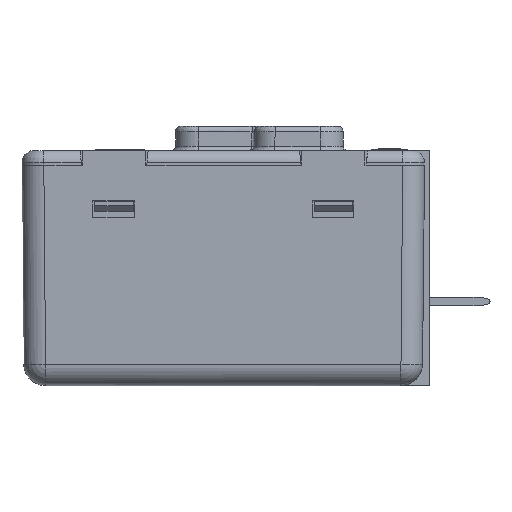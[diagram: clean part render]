
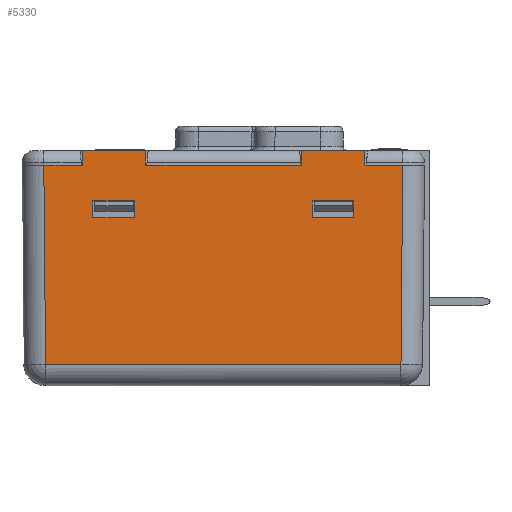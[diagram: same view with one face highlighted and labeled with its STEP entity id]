
A CAD part, left-side view. The second image highlights one B-rep face of the part: STEP entity #5330.
In plain terms, the highlighted planar face has unit normal (-1, 0, -0.009).
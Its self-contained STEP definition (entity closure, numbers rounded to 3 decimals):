
#1540=CARTESIAN_POINT('',(0.026,0.,15.25));
#1550=DIRECTION('',(0.,-1.,0.));
#1560=VECTOR('',#1550,1.);
#1570=LINE('',#1540,#1560);
#1580=CARTESIAN_POINT('',(0.026,27.35,15.25));
#1590=VERTEX_POINT('',#1580);
#1600=CARTESIAN_POINT('',(0.026,23.95,15.25));
#1610=VERTEX_POINT('',#1600);
#1620=EDGE_CURVE('',#1590,#1610,#1570,.T.);
#2290=CARTESIAN_POINT('',(0.038,23.95,13.85));
#2300=VERTEX_POINT('',#2290);
#2350=CARTESIAN_POINT('',(0.038,0.,13.85));
#2360=DIRECTION('',(0.,1.,0.));
#2370=VECTOR('',#2360,1.);
#2380=LINE('',#2350,#2370);
#2390=CARTESIAN_POINT('',(0.038,27.35,13.85));
#2400=VERTEX_POINT('',#2390);
#2410=EDGE_CURVE('',#2300,#2400,#2380,.T.);
#3160=CARTESIAN_POINT('',(0.159,0.,0.001));
#3170=DIRECTION('',(-1.,0.,-0.009));
#3180=DIRECTION('',(0.,1.,0.));
#3190=AXIS2_PLACEMENT_3D('',#3160,#3170,#3180);
#3200=PLANE('',#3190);
#3210=CARTESIAN_POINT('',(0.143,0.,1.784));
#3220=DIRECTION('',(0.,1.,0.));
#3230=VECTOR('',#3220,1.);
#3240=LINE('',#3210,#3230);
#3250=CARTESIAN_POINT('',(0.143,1.943,
1.784));
#3260=VERTEX_POINT('',#3250);
#3270=CARTESIAN_POINT('',(0.143,31.257,
1.784));
#3280=VERTEX_POINT('',#3270);
#3290=EDGE_CURVE('',#3260,#3280,#3240,.T.);
#3300=ORIENTED_EDGE('',*,*,#3290,.F.);
#3310=CARTESIAN_POINT('',(0.159,31.241,
-0.016));
#3320=DIRECTION('',(-0.009,0.009,
1.));
#3330=VECTOR('',#3320,1.);
#3340=LINE('',#3310,#3330);
#3350=CARTESIAN_POINT('',(0.,31.4,
18.2));
#3360=VERTEX_POINT('',#3350);
#3370=EDGE_CURVE('',#3280,#3360,#3340,.T.);
#3380=ORIENTED_EDGE('',*,*,#3370,.F.);
#3390=CARTESIAN_POINT('',(0.,31.4,18.2));
#3400=CARTESIAN_POINT('',(0.,31.4,
18.2));
#3410=CARTESIAN_POINT('',(0.,31.4,
18.2));
#3420=CARTESIAN_POINT('',(0.,31.4,
18.2));
#3430=CARTESIAN_POINT('',(0.,31.4,
18.2));
#3440=CARTESIAN_POINT('',(0.,31.4,
18.2));
#3450=CARTESIAN_POINT('',(0.,31.4,
18.2));
#3460=CARTESIAN_POINT('',(0.,31.4,
18.2));
#3470=CARTESIAN_POINT('',(0.,31.4,
18.2));
#3480=CARTESIAN_POINT('',(0.,31.4,
18.2));
#3490=CARTESIAN_POINT('',(0.,31.4,
18.2));
#3500=CARTESIAN_POINT('',(0.,31.4,
18.2));
#3510=CARTESIAN_POINT('',(0.,31.4,
18.2));
#3520=B_SPLINE_CURVE_WITH_KNOTS('',3,(#3390,#3400,#3410,#3420,#3430,
#3440,#3450,#3460,#3470,#3480,#3490,#3500,#3510),.UNSPECIFIED.,.F.,.F.,(
4,3,3,3,4),(0.,0.,0.,
0.,0.),.UNSPECIFIED.);
#3530=CARTESIAN_POINT('',(0.,31.4,18.2));
#3540=VERTEX_POINT('',#3530);
#3550=EDGE_CURVE('',#3540,#3360,#3520,.T.);
#3560=ORIENTED_EDGE('',*,*,#3550,.T.);
#3570=CARTESIAN_POINT('',(0.,0.,18.2));
#3580=DIRECTION('',(0.,1.,0.));
#3590=VECTOR('',#3580,1.);
#3600=LINE('',#3570,#3590);
#3610=CARTESIAN_POINT('',(0.,28.3,18.2));
#3620=VERTEX_POINT('',#3610);
#3630=EDGE_CURVE('',#3620,#3540,#3600,.T.);
#3640=ORIENTED_EDGE('',*,*,#3630,.T.);
#3650=CARTESIAN_POINT('',(0.,0.,18.2));
#3660=DIRECTION('',(0.,-1.,0.));
#3670=VECTOR('',#3660,1.);
#3680=LINE('',#3650,#3670);
#3690=CARTESIAN_POINT('',(0.,28.25,18.2));
#3700=VERTEX_POINT('',#3690);
#3710=EDGE_CURVE('',#3620,#3700,#3680,.T.);
#3720=ORIENTED_EDGE('',*,*,#3710,.F.);
#3730=CARTESIAN_POINT('',(0.159,28.25,0.));
#3740=DIRECTION('',(-0.009,0.,1.));
#3750=VECTOR('',#3740,1.);
#3760=LINE('',#3730,#3750);
#3770=CARTESIAN_POINT('',(-0.01,28.25,19.38));
#3780=VERTEX_POINT('',#3770);
#3790=EDGE_CURVE('',#3700,#3780,#3760,.T.);
#3800=ORIENTED_EDGE('',*,*,#3790,.F.);
#3810=CARTESIAN_POINT('',(-0.01,0.,19.38));
#3820=DIRECTION('',(0.,-1.,0.));
#3830=VECTOR('',#3820,1.);
#3840=LINE('',#3810,#3830);
#3850=CARTESIAN_POINT('',(-0.01,23.05,19.38));
#3860=VERTEX_POINT('',#3850);
#3870=EDGE_CURVE('',#3780,#3860,#3840,.T.);
#3880=ORIENTED_EDGE('',*,*,#3870,.F.);
#3890=CARTESIAN_POINT('',(0.159,23.05,0.));
#3900=DIRECTION('',(0.009,0.,-1.));
#3910=VECTOR('',#3900,1.);
#3920=LINE('',#3890,#3910);
#3930=CARTESIAN_POINT('',(0.,23.05,18.2));
#3940=VERTEX_POINT('',#3930);
#3950=EDGE_CURVE('',#3860,#3940,#3920,.T.);
#3960=ORIENTED_EDGE('',*,*,#3950,.F.);
#3970=CARTESIAN_POINT('',(0.,0.,18.2));
#3980=DIRECTION('',(0.,-1.,0.));
#3990=VECTOR('',#3980,1.);
#4000=LINE('',#3970,#3990);
#4010=CARTESIAN_POINT('',(0.,22.9,18.2));
#4020=VERTEX_POINT('',#4010);
#4030=EDGE_CURVE('',#3940,#4020,#4000,.T.);
#4040=ORIENTED_EDGE('',*,*,#4030,.F.);
#4050=CARTESIAN_POINT('',(0.,0.,18.2));
#4060=DIRECTION('',(0.,1.,0.));
#4070=VECTOR('',#4060,1.);
#4080=LINE('',#4050,#4070);
#4090=CARTESIAN_POINT('',(0.,10.2,18.2));
#4100=VERTEX_POINT('',#4090);
#4110=EDGE_CURVE('',#4100,#4020,#4080,.T.);
#4120=ORIENTED_EDGE('',*,*,#4110,.T.);
#4130=CARTESIAN_POINT('',(0.,10.15,18.2));
#4140=VERTEX_POINT('',#4130);
#4150=EDGE_CURVE('',#4100,#4140,#4000,.T.);
#4160=ORIENTED_EDGE('',*,*,#4150,.F.);
#4170=CARTESIAN_POINT('',(0.159,10.15,0.));
#4180=DIRECTION('',(-0.009,0.,1.));
#4190=VECTOR('',#4180,1.);
#4200=LINE('',#4170,#4190);
#4210=CARTESIAN_POINT('',(-0.01,10.15,19.38));
#4220=VERTEX_POINT('',#4210);
#4230=EDGE_CURVE('',#4140,#4220,#4200,.T.);
#4240=ORIENTED_EDGE('',*,*,#4230,.F.);
#4250=CARTESIAN_POINT('',(-0.01,0.,19.38));
#4260=DIRECTION('',(0.,-1.,0.));
#4270=VECTOR('',#4260,1.);
#4280=LINE('',#4250,#4270);
#4290=CARTESIAN_POINT('',(-0.01,4.95,19.38));
#4300=VERTEX_POINT('',#4290);
#4310=EDGE_CURVE('',#4220,#4300,#4280,.T.);
#4320=ORIENTED_EDGE('',*,*,#4310,.F.);
#4330=CARTESIAN_POINT('',(0.159,4.95,0.));
#4340=DIRECTION('',(0.009,0.,-1.));
#4350=VECTOR('',#4340,1.);
#4360=LINE('',#4330,#4350);
#4370=CARTESIAN_POINT('',(0.,4.95,18.2));
#4380=VERTEX_POINT('',#4370);
#4390=EDGE_CURVE('',#4300,#4380,#4360,.T.);
#4400=ORIENTED_EDGE('',*,*,#4390,.F.);
#4410=CARTESIAN_POINT('',(0.,0.,18.2));
#4420=DIRECTION('',(0.,-1.,0.));
#4430=VECTOR('',#4420,1.);
#4440=LINE('',#4410,#4430);
#4450=CARTESIAN_POINT('',(0.,4.8,
18.2));
#4460=VERTEX_POINT('',#4450);
#4470=EDGE_CURVE('',#4380,#4460,#4440,.T.);
#4480=ORIENTED_EDGE('',*,*,#4470,.F.);
#4490=CARTESIAN_POINT('',(0.,0.,18.2));
#4500=DIRECTION('',(0.,1.,0.));
#4510=VECTOR('',#4500,1.);
#4520=LINE('',#4490,#4510);
#4530=CARTESIAN_POINT('',(0.,1.8,18.2));
#4540=VERTEX_POINT('',#4530);
#4550=EDGE_CURVE('',#4540,#4460,#4520,.T.);
#4560=ORIENTED_EDGE('',*,*,#4550,.T.);
#4570=CARTESIAN_POINT('',(0.,1.8,
18.2));
#4580=CARTESIAN_POINT('',(0.,1.8,
18.2));
#4590=CARTESIAN_POINT('',(0.,1.8,
18.2));
#4600=CARTESIAN_POINT('',(0.,1.8,
18.2));
#4610=CARTESIAN_POINT('',(0.,1.8,
18.2));
#4620=CARTESIAN_POINT('',(0.,1.8,
18.2));
#4630=CARTESIAN_POINT('',(0.,1.8,
18.2));
#4640=CARTESIAN_POINT('',(0.,1.8,
18.2));
#4650=CARTESIAN_POINT('',(0.,1.8,
18.2));
#4660=CARTESIAN_POINT('',(0.,1.8,
18.2));
#4670=CARTESIAN_POINT('',(0.,1.8,
18.2));
#4680=CARTESIAN_POINT('',(0.,1.8,
18.2));
#4690=CARTESIAN_POINT('',(0.,1.8,18.2));
#4700=B_SPLINE_CURVE_WITH_KNOTS('',3,(#4570,#4580,#4590,#4600,#4610,
#4620,#4630,#4640,#4650,#4660,#4670,#4680,#4690),.UNSPECIFIED.,.F.,.F.,(
4,3,3,3,4),(0.,0.,0.,
0.,0.),.UNSPECIFIED.);
#4710=CARTESIAN_POINT('',(0.,1.8,
18.2));
#4720=VERTEX_POINT('',#4710);
#4730=EDGE_CURVE('',#4720,#4540,#4700,.T.);
#4740=ORIENTED_EDGE('',*,*,#4730,.T.);
#4750=CARTESIAN_POINT('',(0.159,1.959,
-0.016));
#4760=DIRECTION('',(-0.009,-0.009,
1.));
#4770=VECTOR('',#4760,1.);
#4780=LINE('',#4750,#4770);
#4790=EDGE_CURVE('',#3260,#4720,#4780,.T.);
#4800=ORIENTED_EDGE('',*,*,#4790,.T.);
#4810=EDGE_LOOP('',(#4800,#4740,#4560,#4480,#4400,#4320,#4240,#4160,
#4120,#4040,#3960,#3880,#3800,#3720,#3640,#3560,#3380,#3300));
#4820=FACE_OUTER_BOUND('',#4810,.T.);
#4830=CARTESIAN_POINT('',(0.038,0.,13.85));
#4840=DIRECTION('',(0.,1.,0.));
#4850=VECTOR('',#4840,1.);
#4860=LINE('',#4830,#4850);
#4870=CARTESIAN_POINT('',(0.038,5.85,13.85));
#4880=VERTEX_POINT('',#4870);
#4890=CARTESIAN_POINT('',(0.038,9.25,13.85));
#4900=VERTEX_POINT('',#4890);
#4910=EDGE_CURVE('',#4880,#4900,#4860,.T.);
#4920=ORIENTED_EDGE('',*,*,#4910,.T.);
#4930=CARTESIAN_POINT('',(0.159,5.85,0.));
#4940=DIRECTION('',(0.009,0.,-1.));
#4950=VECTOR('',#4940,1.);
#4960=LINE('',#4930,#4950);
#4970=CARTESIAN_POINT('',(0.026,5.85,15.25));
#4980=VERTEX_POINT('',#4970);
#4990=EDGE_CURVE('',#4980,#4880,#4960,.T.);
#5000=ORIENTED_EDGE('',*,*,#4990,.T.);
#5010=CARTESIAN_POINT('',(0.026,0.,15.25));
#5020=DIRECTION('',(0.,-1.,0.));
#5030=VECTOR('',#5020,1.);
#5040=LINE('',#5010,#5030);
#5050=CARTESIAN_POINT('',(0.026,9.25,15.25));
#5060=VERTEX_POINT('',#5050);
#5070=EDGE_CURVE('',#5060,#4980,#5040,.T.);
#5080=ORIENTED_EDGE('',*,*,#5070,.T.);
#5090=CARTESIAN_POINT('',(0.159,9.25,0.));
#5100=DIRECTION('',(-0.009,0.,1.));
#5110=VECTOR('',#5100,1.);
#5120=LINE('',#5090,#5110);
#5130=EDGE_CURVE('',#4900,#5060,#5120,.T.);
#5140=ORIENTED_EDGE('',*,*,#5130,.T.);
#5150=EDGE_LOOP('',(#5140,#5080,#5000,#4920));
#5160=FACE_BOUND('',#5150,.T.);
#5170=CARTESIAN_POINT('',(0.159,27.35,0.));
#5180=DIRECTION('',(-0.009,0.,1.));
#5190=VECTOR('',#5180,1.);
#5200=LINE('',#5170,#5190);
#5210=EDGE_CURVE('',#2400,#1590,#5200,.T.);
#5220=ORIENTED_EDGE('',*,*,#5210,.T.);
#5230=ORIENTED_EDGE('',*,*,#2410,.T.);
#5240=CARTESIAN_POINT('',(0.159,23.95,0.));
#5250=DIRECTION('',(0.009,0.,-1.));
#5260=VECTOR('',#5250,1.);
#5270=LINE('',#5240,#5260);
#5280=EDGE_CURVE('',#1610,#2300,#5270,.T.);
#5290=ORIENTED_EDGE('',*,*,#5280,.T.);
#5300=ORIENTED_EDGE('',*,*,#1620,.T.);
#5310=EDGE_LOOP('',(#5300,#5290,#5230,#5220));
#5320=FACE_BOUND('',#5310,.T.);
#5330=ADVANCED_FACE('',(#4820,#5160,#5320),#3200,.T.);
